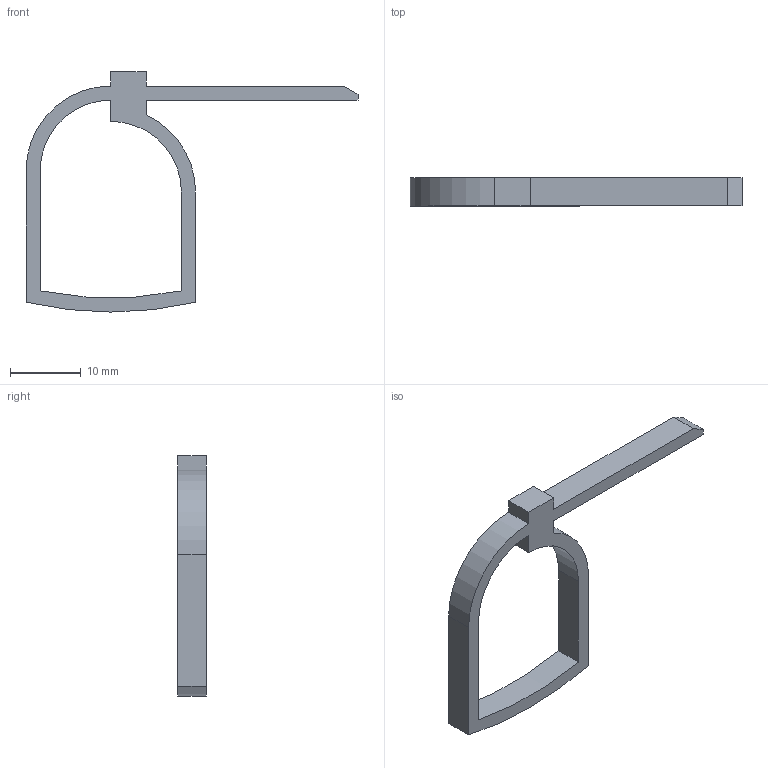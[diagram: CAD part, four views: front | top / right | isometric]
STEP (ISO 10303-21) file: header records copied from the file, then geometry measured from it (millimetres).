
FILE_DESCRIPTION(/* description */ (''),/* implementation_level */ '2;1');
FILE_NAME(/* name */ 'C:\Users\user\Documents\Inventor\Home Ventilator CPAP\ziptie.stp',/* time_stamp */ '2020-04-03T13:37:41+02:00',/* author */ ('user'),/* organization */ (''),/* preprocessor_version */ 'ST-DEVELOPER v16.5',/* originating_system */ 'Autodesk Inventor 2017',/* authorisation */ '');
FILE_SCHEMA (('AUTOMOTIVE_DESIGN { 1 0 10303 214 3 1 1 }'));
Length unit declared in the file: millimetre
Products named in the file (1): ziptie
Bounding box: 47 x 4 x 34 mm (x, y, z)
Volume: 1057.3 mm3; surface area: 1523.7 mm2
Topology: 1 solids, 1 shells, 21 faces, 57 edges, 38 vertices
Faces by surface type: plane 15, cylinder 6
Entity records: 697 total; most frequent: CARTESIAN_POINT 117, ORIENTED_EDGE 114, DIRECTION 113, EDGE_CURVE 57, LINE 45, VECTOR 45, VERTEX_POINT 38, AXIS2_PLACEMENT_3D 34
